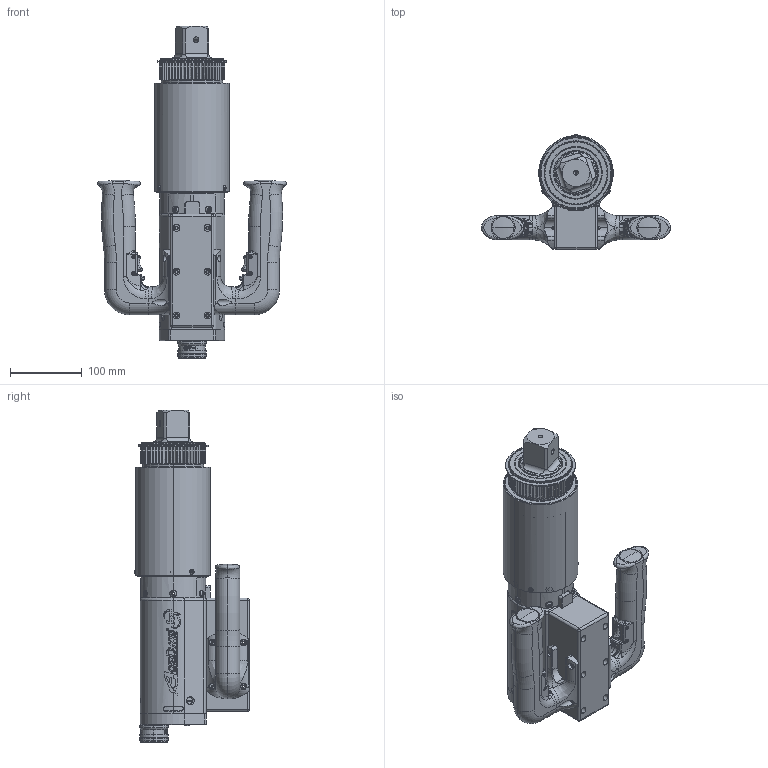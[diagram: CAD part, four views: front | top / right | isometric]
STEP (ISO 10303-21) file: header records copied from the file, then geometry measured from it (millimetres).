
FILE_DESCRIPTION (( 'STEP AP214' ), '1' );
FILE_NAME ('AEJ4A898100BDL.STEP', '2022-07-29T21:59:45', ( '' ), ( '' ), 'SwSTEP 2.0', 'SolidWorks 2022', '' );
FILE_SCHEMA (( 'AUTOMOTIVE_DESIGN' ));
Length unit declared in the file: inch
Products named in the file (1): AEJ4A898100BDL
Bounding box: 262.68 x 159.79 x 461.64 mm (x, y, z)
Surface area: 398893.2 mm2 (no closed solid volume)
Topology: 0 solids, 113 shells, 1565 faces, 5490 edges, 3841 vertices
Faces by surface type: cylinder 574, plane 330, bspline 288, cone 183, torus 174, sphere 16
Entity records: 155370 total; most frequent: CARTESIAN_POINT 92347, ORIENTED_EDGE 8520, DIRECTION 8153, EDGE_CURVE 5482, VERTEX_POINT 3841, AXIS2_PLACEMENT_3D 3203, CIRCLE 1925, VECTOR 1747
